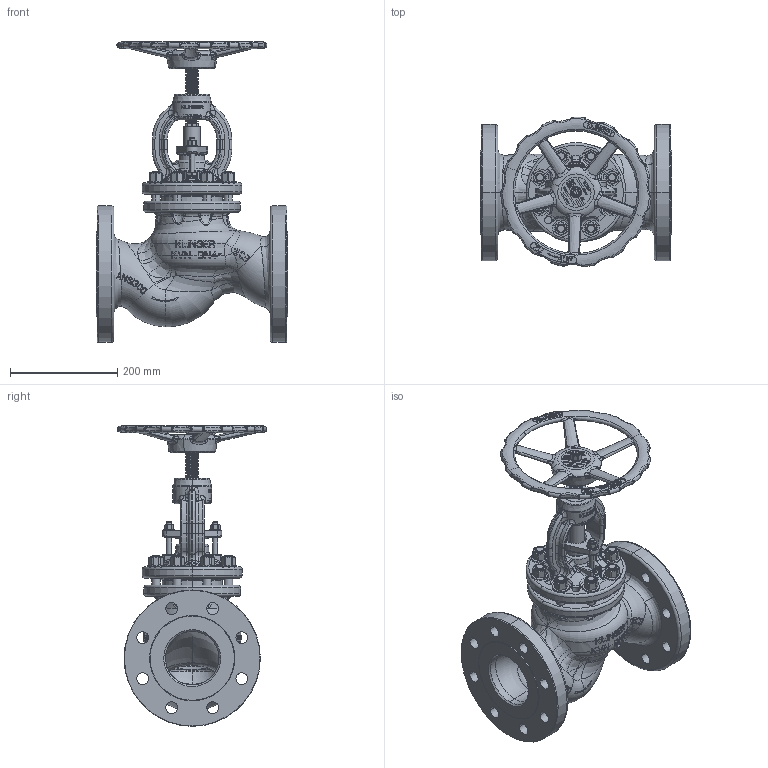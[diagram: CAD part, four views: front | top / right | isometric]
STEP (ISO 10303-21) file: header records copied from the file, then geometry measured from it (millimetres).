
FILE_DESCRIPTION((''),'2;1');
FILE_NAME('KVNFL-4-S-----C300PGG_SW0001','2018-12-12T13:26:14',('jeitlers'),('KLINGER'),'CREO PARAMETRIC BY PTC INC, 2018190','CREO PARAMETRIC BY PTC INC, 2018190','');
FILE_SCHEMA(('AUTOMOTIVE_DESIGN { 1 0 10303 214 1 1 1 1 }'));
Products named in the file (1): KVNFL-4-S-----C300PGG_SW0001
Bounding box: 356 x 279.24 x 560.1 mm (x, y, z)
Volume: 7057956.5 mm3; surface area: 1030594.4 mm2
Topology: 4 solids, 14 shells, 4789 faces, 12640 edges, 7998 vertices
Faces by surface type: plane 2677, bspline 772, cylinder 698, torus 381, cone 235, sphere 26
Entity records: 316137 total; most frequent: CARTESIAN_POINT 205034, ORIENTED_EDGE 25276, DIRECTION 19963, EDGE_CURVE 12638, VERTEX_POINT 7998, AXIS2_PLACEMENT_3D 6991, VECTOR 5978, LINE 5978
